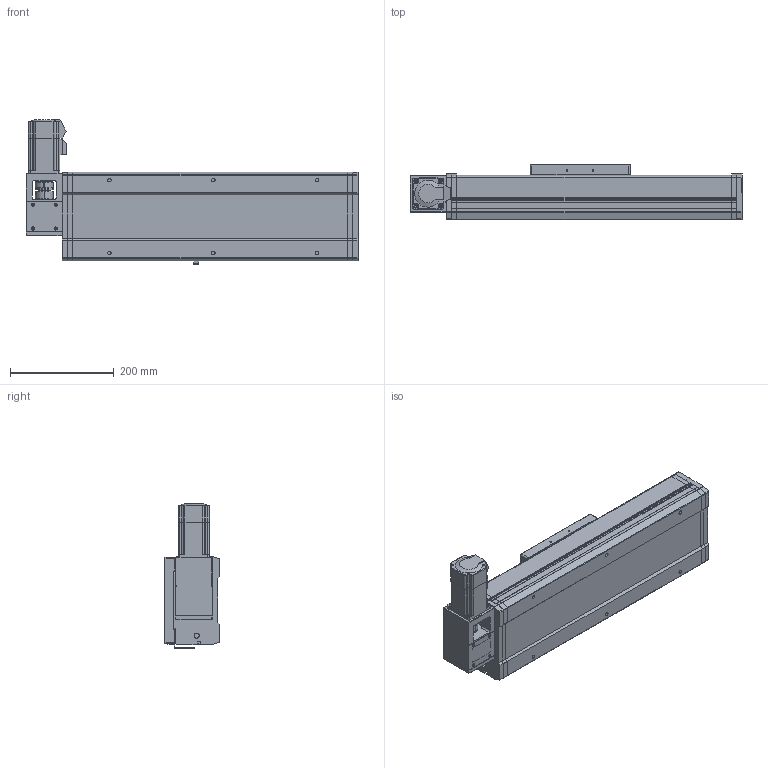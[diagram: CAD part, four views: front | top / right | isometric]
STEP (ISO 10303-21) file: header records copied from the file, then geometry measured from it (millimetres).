
FILE_DESCRIPTION((''),'2;1');
FILE_NAME('170-TZJ3FL-S250_ASM','2015-12-04T',('lenovo'),(''),'PRO/ENGINEER BY PARAMETRIC TECHNOLOGY CORPORATION, 2010280','PRO/ENGINEER BY PARAMETRIC TECHNOLOGY CORPORATION, 2010280','');
FILE_SCHEMA(('CONFIG_CONTROL_DESIGN'));
Length unit declared in the file: millimetre
Products named in the file (5): 170-TJFL-DZ; 170-HK; 170-HDB-01; 170-TZJ3FL-DJZ; 170-TZJ3FL-S250_ASM
Assembly tree (4 placements, depth 2):
  170-TZJ3FL-S250_ASM
    170-TJFL-DZ
    170-HK
    170-HDB-01
    170-TZJ3FL-DJZ
Bounding box: 639 x 107 x 278.5 mm (x, y, z)
Volume: 5329194.6 mm3; surface area: 863436.2 mm2
Topology: 6 solids, 30 shells, 1462 faces, 3985 edges, 2657 vertices
Faces by surface type: plane 786, cylinder 535, cone 113, torus 28
Entity records: 46939 total; most frequent: CARTESIAN_POINT 8387, DIRECTION 8228, ORIENTED_EDGE 7970, EDGE_CURVE 3985, AXIS2_PLACEMENT_3D 2814, VERTEX_POINT 2657, VECTOR 2600, LINE 2600
